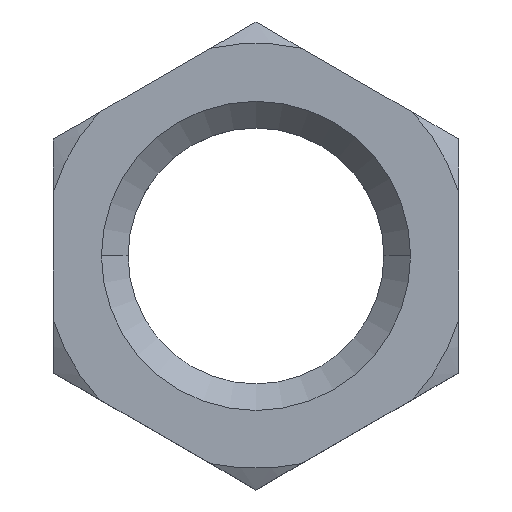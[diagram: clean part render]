
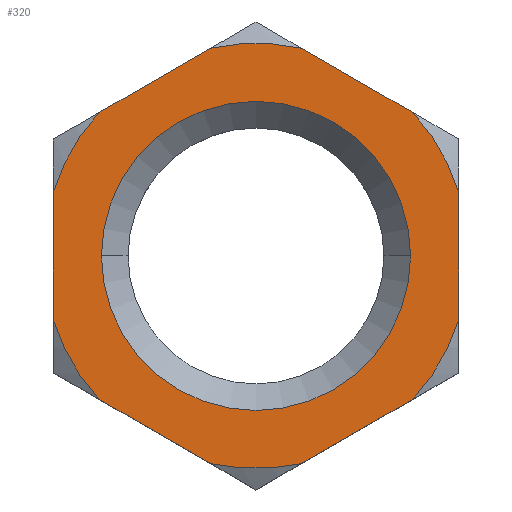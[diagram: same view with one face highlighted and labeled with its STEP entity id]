
A CAD part, top view. The second image highlights one B-rep face of the part: STEP entity #320.
In plain terms, the highlighted planar face has unit normal (0, 0, 1).
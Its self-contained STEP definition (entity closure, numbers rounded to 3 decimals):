
#11 = EDGE_CURVE ( 'NONE', #529, #164, #865, .T. ) ;
#17 = CARTESIAN_POINT ( 'NONE',  ( 0., 0., 2.85 ) ) ;
#19 = VERTEX_POINT ( 'NONE', #863 ) ;
#21 = ORIENTED_EDGE ( 'NONE', *, *, #61, .T. ) ;
#34 = DIRECTION ( 'NONE',  ( -1., 0., 0. ) ) ;
#45 = CARTESIAN_POINT ( 'NONE',  ( 7.25, 0., 2.85 ) ) ;
#61 = EDGE_CURVE ( 'NONE', #290, #373, #510, .T. ) ;
#63 = LINE ( 'NONE', #870, #330 ) ;
#78 = CIRCLE ( 'NONE', #699, 9.97 ) ;
#105 = DIRECTION ( 'NONE',  ( -0.866, -0.5, 0. ) ) ;
#110 = CARTESIAN_POINT ( 'NONE',  ( -2.131, 9.739, 2.85 ) ) ;
#125 = AXIS2_PLACEMENT_3D ( 'NONE', #603, #542, #188 ) ;
#129 = AXIS2_PLACEMENT_3D ( 'NONE', #590, #464, #34 ) ;
#133 = EDGE_CURVE ( 'NONE', #193, #164, #340, .T. ) ;
#136 = VERTEX_POINT ( 'NONE', #468 ) ;
#139 = EDGE_CURVE ( 'NONE', #529, #489, #63, .T. ) ;
#145 = AXIS2_PLACEMENT_3D ( 'NONE', #148, #714, #385 ) ;
#148 = CARTESIAN_POINT ( 'NONE',  ( 0., 0., 2.85 ) ) ;
#151 = EDGE_CURVE ( 'NONE', #560, #136, #556, .T. ) ;
#164 = VERTEX_POINT ( 'NONE', #521 ) ;
#181 = VECTOR ( 'NONE', #277, 1000. ) ;
#182 = CARTESIAN_POINT ( 'NONE',  ( 7.369, 6.715, 2.85 ) ) ;
#188 = DIRECTION ( 'NONE',  ( 1., 0., 0. ) ) ;
#190 = ORIENTED_EDGE ( 'NONE', *, *, #151, .F. ) ;
#193 = VERTEX_POINT ( 'NONE', #110 ) ;
#203 = VERTEX_POINT ( 'NONE', #591 ) ;
#204 = VERTEX_POINT ( 'NONE', #182 ) ;
#205 = EDGE_CURVE ( 'NONE', #388, #519, #494, .T. ) ;
#206 = ORIENTED_EDGE ( 'NONE', *, *, #892, .T. ) ;
#214 = AXIS2_PLACEMENT_3D ( 'NONE', #802, #473, #665 ) ;
#237 = ORIENTED_EDGE ( 'NONE', *, *, #818, .T. ) ;
#238 = LINE ( 'NONE', #279, #370 ) ;
#243 = DIRECTION ( 'NONE',  ( 0., 0., -1. ) ) ;
#246 = DIRECTION ( 'NONE',  ( 0., -1., 0. ) ) ;
#249 = ORIENTED_EDGE ( 'NONE', *, *, #774, .F. ) ;
#252 = CARTESIAN_POINT ( 'NONE',  ( 9.5, -5.485, 2.85 ) ) ;
#277 = DIRECTION ( 'NONE',  ( 0.866, 0.5, 0. ) ) ;
#279 = CARTESIAN_POINT ( 'NONE',  ( -9.5, -5.485, 2.85 ) ) ;
#281 = AXIS2_PLACEMENT_3D ( 'NONE', #296, #686, #558 ) ;
#290 = VERTEX_POINT ( 'NONE', #45 ) ;
#296 = CARTESIAN_POINT ( 'NONE',  ( 0., 0., 2.85 ) ) ;
#298 = EDGE_CURVE ( 'NONE', #204, #775, #550, .T. ) ;
#311 = CARTESIAN_POINT ( 'NONE',  ( -7.25, 0., 2.85 ) ) ;
#316 = CARTESIAN_POINT ( 'NONE',  ( 9.5, 3.024, 2.85 ) ) ;
#320 = ADVANCED_FACE ( 'NONE', ( #851, #833 ), #814, .T. ) ;
#323 = ORIENTED_EDGE ( 'NONE', *, *, #11, .F. ) ;
#324 = CIRCLE ( 'NONE', #501, 9.97 ) ;
#330 = VECTOR ( 'NONE', #246, 1000. ) ;
#340 = LINE ( 'NONE', #528, #891 ) ;
#362 = CIRCLE ( 'NONE', #281, 7.25 ) ;
#370 = VECTOR ( 'NONE', #543, 1000. ) ;
#373 = VERTEX_POINT ( 'NONE', #311 ) ;
#385 = DIRECTION ( 'NONE',  ( 1., 0., 0. ) ) ;
#387 = CARTESIAN_POINT ( 'NONE',  ( -9.5, 3.024, 2.85 ) ) ;
#388 = VERTEX_POINT ( 'NONE', #451 ) ;
#408 = AXIS2_PLACEMENT_3D ( 'NONE', #17, #585, #647 ) ;
#411 = CARTESIAN_POINT ( 'NONE',  ( 0., -10.97, 2.85 ) ) ;
#415 = CARTESIAN_POINT ( 'NONE',  ( 9.5, 5.485, 2.85 ) ) ;
#427 = ORIENTED_EDGE ( 'NONE', *, *, #205, .T. ) ;
#445 = CARTESIAN_POINT ( 'NONE',  ( -9.5, -3.024, 2.85 ) ) ;
#451 = CARTESIAN_POINT ( 'NONE',  ( 9.5, -3.024, 2.85 ) ) ;
#464 = DIRECTION ( 'NONE',  ( 0., 0., -1. ) ) ;
#468 = CARTESIAN_POINT ( 'NONE',  ( -2.131, -9.739, 2.85 ) ) ;
#473 = DIRECTION ( 'NONE',  ( 0., 0., -1. ) ) ;
#475 = CARTESIAN_POINT ( 'NONE',  ( 2.131, 9.739, 2.85 ) ) ;
#479 = DIRECTION ( 'NONE',  ( -1., 0., 0. ) ) ;
#486 = EDGE_CURVE ( 'NONE', #203, #489, #750, .T. ) ;
#489 = VERTEX_POINT ( 'NONE', #445 ) ;
#494 = LINE ( 'NONE', #252, #728 ) ;
#501 = AXIS2_PLACEMENT_3D ( 'NONE', #820, #886, #613 ) ;
#510 = CIRCLE ( 'NONE', #145, 7.25 ) ;
#519 = VERTEX_POINT ( 'NONE', #316 ) ;
#521 = CARTESIAN_POINT ( 'NONE',  ( -7.369, 6.715, 2.85 ) ) ;
#528 = CARTESIAN_POINT ( 'NONE',  ( 0., 10.97, 2.85 ) ) ;
#529 = VERTEX_POINT ( 'NONE', #387 ) ;
#542 = DIRECTION ( 'NONE',  ( 0., 0., 1. ) ) ;
#543 = DIRECTION ( 'NONE',  ( 0.866, -0.5, 0. ) ) ;
#546 = ORIENTED_EDGE ( 'NONE', *, *, #806, .F. ) ;
#550 = LINE ( 'NONE', #415, #575 ) ;
#554 = LINE ( 'NONE', #411, #181 ) ;
#556 = CIRCLE ( 'NONE', #129, 9.97 ) ;
#558 = DIRECTION ( 'NONE',  ( 1., 0., 0. ) ) ;
#560 = VERTEX_POINT ( 'NONE', #649 ) ;
#575 = VECTOR ( 'NONE', #819, 1000. ) ;
#585 = DIRECTION ( 'NONE',  ( 0., 0., -1. ) ) ;
#590 = CARTESIAN_POINT ( 'NONE',  ( 0., 0., 2.85 ) ) ;
#591 = CARTESIAN_POINT ( 'NONE',  ( -7.369, -6.715, 2.85 ) ) ;
#603 = CARTESIAN_POINT ( 'NONE',  ( 0., 0., 2.85 ) ) ;
#604 = EDGE_LOOP ( 'NONE', ( #652, #427, #546, #667, #249, #614, #323, #653, #697, #753, #190, #237 ) ) ;
#613 = DIRECTION ( 'NONE',  ( -1., 0., 0. ) ) ;
#614 = ORIENTED_EDGE ( 'NONE', *, *, #133, .T. ) ;
#647 = DIRECTION ( 'NONE',  ( -1., 0., 0. ) ) ;
#649 = CARTESIAN_POINT ( 'NONE',  ( 2.131, -9.739, 2.85 ) ) ;
#652 = ORIENTED_EDGE ( 'NONE', *, *, #732, .F. ) ;
#653 = ORIENTED_EDGE ( 'NONE', *, *, #139, .T. ) ;
#654 = DIRECTION ( 'NONE',  ( -1., 0., 0. ) ) ;
#665 = DIRECTION ( 'NONE',  ( -1., 0., 0. ) ) ;
#667 = ORIENTED_EDGE ( 'NONE', *, *, #298, .T. ) ;
#668 = EDGE_LOOP ( 'NONE', ( #21, #206 ) ) ;
#686 = DIRECTION ( 'NONE',  ( 0., 0., -1. ) ) ;
#697 = ORIENTED_EDGE ( 'NONE', *, *, #486, .F. ) ;
#699 = AXIS2_PLACEMENT_3D ( 'NONE', #893, #815, #479 ) ;
#714 = DIRECTION ( 'NONE',  ( 0., 0., -1. ) ) ;
#728 = VECTOR ( 'NONE', #876, 1000. ) ;
#730 = CARTESIAN_POINT ( 'NONE',  ( 0., 0., 2.85 ) ) ;
#732 = EDGE_CURVE ( 'NONE', #388, #19, #740, .T. ) ;
#740 = CIRCLE ( 'NONE', #214, 9.97 ) ;
#750 = CIRCLE ( 'NONE', #408, 9.97 ) ;
#753 = ORIENTED_EDGE ( 'NONE', *, *, #844, .T. ) ;
#774 = EDGE_CURVE ( 'NONE', #193, #775, #78, .T. ) ;
#775 = VERTEX_POINT ( 'NONE', #475 ) ;
#802 = CARTESIAN_POINT ( 'NONE',  ( 0., 0., 2.85 ) ) ;
#806 = EDGE_CURVE ( 'NONE', #204, #519, #324, .T. ) ;
#814 = PLANE ( 'NONE',  #125 ) ;
#815 = DIRECTION ( 'NONE',  ( 0., 0., -1. ) ) ;
#818 = EDGE_CURVE ( 'NONE', #560, #19, #554, .T. ) ;
#819 = DIRECTION ( 'NONE',  ( -0.866, 0.5, 0. ) ) ;
#820 = CARTESIAN_POINT ( 'NONE',  ( 0., 0., 2.85 ) ) ;
#833 = FACE_OUTER_BOUND ( 'NONE', #604, .T. ) ;
#844 = EDGE_CURVE ( 'NONE', #203, #136, #238, .T. ) ;
#851 = FACE_BOUND ( 'NONE', #668, .T. ) ;
#863 = CARTESIAN_POINT ( 'NONE',  ( 7.369, -6.715, 2.85 ) ) ;
#865 = CIRCLE ( 'NONE', #897, 9.97 ) ;
#870 = CARTESIAN_POINT ( 'NONE',  ( -9.5, 5.485, 2.85 ) ) ;
#876 = DIRECTION ( 'NONE',  ( 0., 1., 0. ) ) ;
#886 = DIRECTION ( 'NONE',  ( 0., 0., -1. ) ) ;
#891 = VECTOR ( 'NONE', #105, 1000. ) ;
#892 = EDGE_CURVE ( 'NONE', #373, #290, #362, .T. ) ;
#893 = CARTESIAN_POINT ( 'NONE',  ( 0., 0., 2.85 ) ) ;
#897 = AXIS2_PLACEMENT_3D ( 'NONE', #730, #243, #654 ) ;
